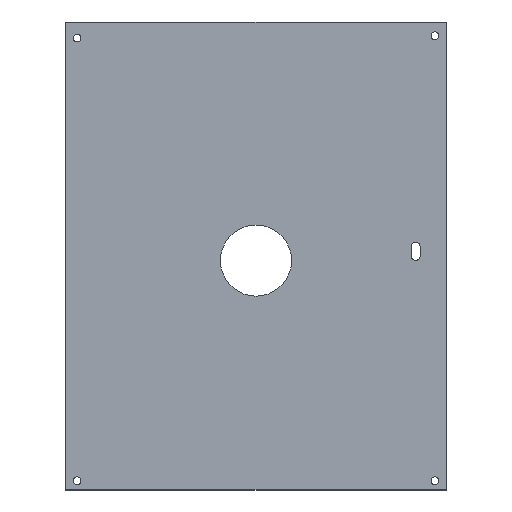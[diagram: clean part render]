
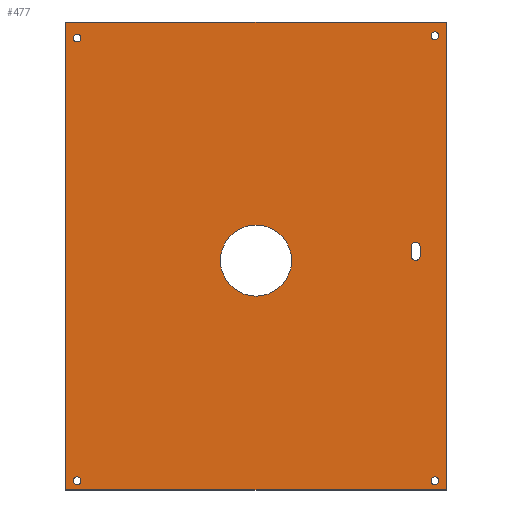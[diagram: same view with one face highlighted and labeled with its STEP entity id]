
A CAD part, top view. The second image highlights one B-rep face of the part: STEP entity #477.
In plain terms, the highlighted planar face has unit normal (0, 0, 1).
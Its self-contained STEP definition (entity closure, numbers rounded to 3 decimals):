
#102=DIRECTION('',(0.,-1.,0.));
#103=VECTOR('',#102,102.);
#104=CARTESIAN_POINT('',(-41.5,51.,0.5));
#105=LINE('',#104,#103);
#106=DIRECTION('',(-1.,0.,0.));
#107=VECTOR('',#106,83.);
#108=CARTESIAN_POINT('',(41.5,51.,0.5));
#109=LINE('',#108,#107);
#110=DIRECTION('',(0.,1.,0.));
#111=VECTOR('',#110,102.);
#112=CARTESIAN_POINT('',(41.5,-51.,0.5));
#113=LINE('',#112,#111);
#114=DIRECTION('',(1.,0.,0.));
#115=VECTOR('',#114,83.);
#116=CARTESIAN_POINT('',(-41.5,-51.,0.5));
#117=LINE('',#116,#115);
#118=CARTESIAN_POINT('',(-39.,-49.,0.5));
#119=DIRECTION('',(0.,0.,-1.));
#120=DIRECTION('',(-1.,0.,0.));
#121=AXIS2_PLACEMENT_3D('',#118,#119,#120);
#123=CARTESIAN_POINT('',(-39.,-49.,0.5));
#124=DIRECTION('',(0.,0.,-1.));
#125=DIRECTION('',(1.,0.,0.));
#126=AXIS2_PLACEMENT_3D('',#123,#124,#125);
#128=CARTESIAN_POINT('',(39.,-49.,0.5));
#129=DIRECTION('',(0.,0.,-1.));
#130=DIRECTION('',(-1.,0.,0.));
#131=AXIS2_PLACEMENT_3D('',#128,#129,#130);
#133=CARTESIAN_POINT('',(39.,-49.,0.5));
#134=DIRECTION('',(0.,0.,-1.));
#135=DIRECTION('',(1.,0.,0.));
#136=AXIS2_PLACEMENT_3D('',#133,#134,#135);
#138=CARTESIAN_POINT('',(39.,48.,0.5));
#139=DIRECTION('',(0.,0.,-1.));
#140=DIRECTION('',(-1.,0.,0.));
#141=AXIS2_PLACEMENT_3D('',#138,#139,#140);
#143=CARTESIAN_POINT('',(39.,48.,0.5));
#144=DIRECTION('',(0.,0.,-1.));
#145=DIRECTION('',(1.,0.,0.));
#146=AXIS2_PLACEMENT_3D('',#143,#144,#145);
#148=CARTESIAN_POINT('',(34.8,2.,0.5));
#149=DIRECTION('',(0.,0.,1.));
#150=DIRECTION('',(1.,0.,0.));
#151=AXIS2_PLACEMENT_3D('',#148,#149,#150);
#153=DIRECTION('',(0.,-1.,0.));
#154=VECTOR('',#153,2.);
#155=CARTESIAN_POINT('',(33.8,2.,0.5));
#156=LINE('',#155,#154);
#157=CARTESIAN_POINT('',(34.8,0.,0.5));
#158=DIRECTION('',(0.,0.,1.));
#159=DIRECTION('',(-1.,0.,0.));
#160=AXIS2_PLACEMENT_3D('',#157,#158,#159);
#162=DIRECTION('',(0.,1.,0.));
#163=VECTOR('',#162,2.);
#164=CARTESIAN_POINT('',(35.8,0.,0.5));
#165=LINE('',#164,#163);
#166=CARTESIAN_POINT('',(0.,-1.,0.5));
#167=DIRECTION('',(0.,0.,-1.));
#168=DIRECTION('',(-1.,0.,0.));
#169=AXIS2_PLACEMENT_3D('',#166,#167,#168);
#171=CARTESIAN_POINT('',(0.,-1.,0.5));
#172=DIRECTION('',(0.,0.,-1.));
#173=DIRECTION('',(1.,0.,0.));
#174=AXIS2_PLACEMENT_3D('',#171,#172,#173);
#176=CARTESIAN_POINT('',(-39.,47.5,0.5));
#177=DIRECTION('',(0.,0.,-1.));
#178=DIRECTION('',(-1.,0.,0.));
#179=AXIS2_PLACEMENT_3D('',#176,#177,#178);
#181=CARTESIAN_POINT('',(-39.,47.5,0.5));
#182=DIRECTION('',(0.,0.,-1.));
#183=DIRECTION('',(1.,0.,0.));
#184=AXIS2_PLACEMENT_3D('',#181,#182,#183);
#250=CARTESIAN_POINT('',(-41.5,51.,0.5));
#251=CARTESIAN_POINT('',(-41.5,-51.,0.5));
#252=VERTEX_POINT('',#250);
#253=VERTEX_POINT('',#251);
#254=CARTESIAN_POINT('',(41.5,-51.,0.5));
#255=VERTEX_POINT('',#254);
#256=CARTESIAN_POINT('',(41.5,51.,0.5));
#257=VERTEX_POINT('',#256);
#262=CARTESIAN_POINT('',(-39.85,-49.,0.5));
#263=CARTESIAN_POINT('',(-38.15,-49.,0.5));
#264=VERTEX_POINT('',#262);
#265=VERTEX_POINT('',#263);
#270=CARTESIAN_POINT('',(38.15,-49.,0.5));
#271=CARTESIAN_POINT('',(39.85,-49.,0.5));
#272=VERTEX_POINT('',#270);
#273=VERTEX_POINT('',#271);
#278=CARTESIAN_POINT('',(38.15,48.,0.5));
#279=CARTESIAN_POINT('',(39.85,48.,0.5));
#280=VERTEX_POINT('',#278);
#281=VERTEX_POINT('',#279);
#290=CARTESIAN_POINT('',(35.8,2.,0.5));
#291=CARTESIAN_POINT('',(33.8,2.,0.5));
#292=VERTEX_POINT('',#290);
#293=VERTEX_POINT('',#291);
#294=CARTESIAN_POINT('',(33.8,0.,0.5));
#295=VERTEX_POINT('',#294);
#296=CARTESIAN_POINT('',(35.8,0.,0.5));
#297=VERTEX_POINT('',#296);
#302=CARTESIAN_POINT('',(-7.75,-1.,0.5));
#303=CARTESIAN_POINT('',(7.75,-1.,0.5));
#304=VERTEX_POINT('',#302);
#305=VERTEX_POINT('',#303);
#310=CARTESIAN_POINT('',(-39.85,47.5,0.5));
#311=CARTESIAN_POINT('',(-38.15,47.5,0.5));
#312=VERTEX_POINT('',#310);
#313=VERTEX_POINT('',#311);
#426=CARTESIAN_POINT('',(0.,0.,0.5));
#427=DIRECTION('',(0.,0.,1.));
#428=DIRECTION('',(1.,0.,0.));
#429=AXIS2_PLACEMENT_3D('',#426,#427,#428);
#430=PLANE('',#429);
#431=ORIENTED_EDGE('',*,*,#378,.F.);
#432=ORIENTED_EDGE('',*,*,#393,.F.);
#433=ORIENTED_EDGE('',*,*,#407,.F.);
#434=ORIENTED_EDGE('',*,*,#420,.F.);
#435=EDGE_LOOP('',(#431,#432,#433,#434));
#436=FACE_OUTER_BOUND('',#435,.F.);
#438=ORIENTED_EDGE('',*,*,#437,.F.);
#440=ORIENTED_EDGE('',*,*,#439,.F.);
#441=EDGE_LOOP('',(#438,#440));
#442=FACE_BOUND('',#441,.F.);
#444=ORIENTED_EDGE('',*,*,#443,.F.);
#446=ORIENTED_EDGE('',*,*,#445,.F.);
#447=EDGE_LOOP('',(#444,#446));
#448=FACE_BOUND('',#447,.F.);
#450=ORIENTED_EDGE('',*,*,#449,.F.);
#452=ORIENTED_EDGE('',*,*,#451,.F.);
#453=EDGE_LOOP('',(#450,#452));
#454=FACE_BOUND('',#453,.F.);
#456=ORIENTED_EDGE('',*,*,#455,.T.);
#458=ORIENTED_EDGE('',*,*,#457,.T.);
#460=ORIENTED_EDGE('',*,*,#459,.T.);
#462=ORIENTED_EDGE('',*,*,#461,.T.);
#463=EDGE_LOOP('',(#456,#458,#460,#462));
#464=FACE_BOUND('',#463,.F.);
#466=ORIENTED_EDGE('',*,*,#465,.F.);
#468=ORIENTED_EDGE('',*,*,#467,.F.);
#469=EDGE_LOOP('',(#466,#468));
#470=FACE_BOUND('',#469,.F.);
#472=ORIENTED_EDGE('',*,*,#471,.F.);
#474=ORIENTED_EDGE('',*,*,#473,.F.);
#475=EDGE_LOOP('',(#472,#474));
#476=FACE_BOUND('',#475,.F.);
#477=ADVANCED_FACE('',(#436,#442,#448,#454,#464,#470,#476),#430,.T.);
#122=CIRCLE('',#121,0.85);
#127=CIRCLE('',#126,0.85);
#132=CIRCLE('',#131,0.85);
#137=CIRCLE('',#136,0.85);
#142=CIRCLE('',#141,0.85);
#147=CIRCLE('',#146,0.85);
#152=CIRCLE('',#151,1.);
#161=CIRCLE('',#160,1.);
#170=CIRCLE('',#169,7.75);
#175=CIRCLE('',#174,7.75);
#180=CIRCLE('',#179,0.85);
#185=CIRCLE('',#184,0.85);
#378=EDGE_CURVE('',#252,#253,#105,.T.);
#393=EDGE_CURVE('',#257,#252,#109,.T.);
#407=EDGE_CURVE('',#255,#257,#113,.T.);
#420=EDGE_CURVE('',#253,#255,#117,.T.);
#437=EDGE_CURVE('',#264,#265,#122,.T.);
#439=EDGE_CURVE('',#265,#264,#127,.T.);
#443=EDGE_CURVE('',#272,#273,#132,.T.);
#445=EDGE_CURVE('',#273,#272,#137,.T.);
#449=EDGE_CURVE('',#280,#281,#142,.T.);
#451=EDGE_CURVE('',#281,#280,#147,.T.);
#455=EDGE_CURVE('',#292,#293,#152,.T.);
#457=EDGE_CURVE('',#293,#295,#156,.T.);
#459=EDGE_CURVE('',#295,#297,#161,.T.);
#461=EDGE_CURVE('',#297,#292,#165,.T.);
#465=EDGE_CURVE('',#304,#305,#170,.T.);
#467=EDGE_CURVE('',#305,#304,#175,.T.);
#471=EDGE_CURVE('',#312,#313,#180,.T.);
#473=EDGE_CURVE('',#313,#312,#185,.T.);
